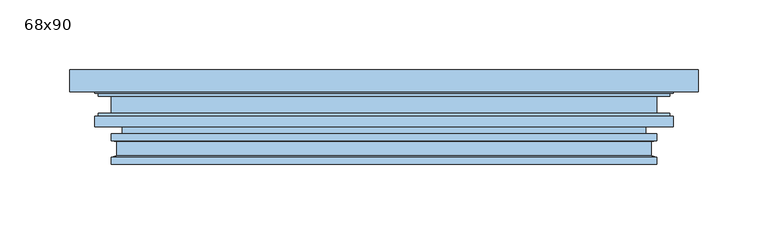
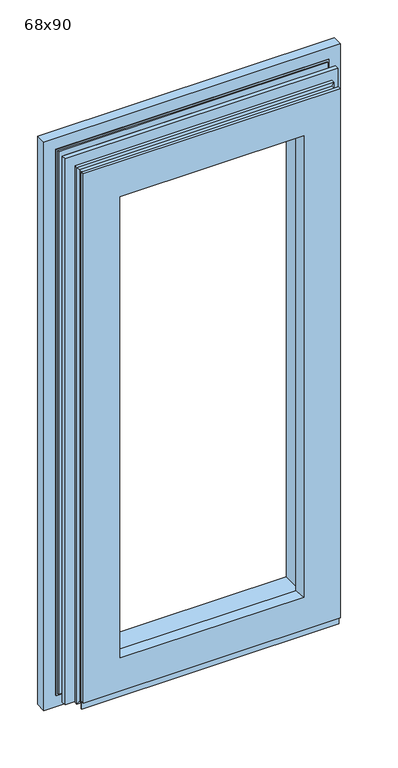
"""IFC4 building model written with IfcOpenShell, lengths in millimetres: window geometry, NLRS_30_WIN_raamhout_sh_gen_TOBA-JM : 68x90."""

from ifc_helpers import new_model, si_unit, origin, place, context, project, spatial, faceted_brep, source, transform, mapped, element, save


def window_68x90_cc8fd18b(model_context):
    return source(origin(), model_context, "Body", "Brep", [
        faceted_brep([(226.0, 68.0, 909.0), (226.0, 52.0, 909.0), (226.0, 52.0, -6.0), (226.0, 68.0, -6.0), (226.0, 68.0, -5.0), (226.0, 68.0, 84.0), (-226.0, 52.0, -6.0), (-226.0, 52.0, 909.0), (-208.0, 52.0, 891.0), (208.0, 52.0, 891.0), (208.0, 52.0, 12.0), (-208.0, 52.0, 12.0), (-226.0, 68.0, -6.0), (-226.0, 68.0, 909.0), (-226.0, 68.0, -5.0), (-226.0, 68.0, 84.0), (153.0, 68.0, 836.0), (-153.0, 68.0, 836.0), (-153.0, 68.0, 67.0), (153.0, 68.0, 67.0), (153.0, 13.0, 836.0), (153.0, 13.0, 67.0), (-153.0, 13.0, 67.0), (-153.0, 13.0, 836.0), (136.0, 13.0, 819.0), (-136.0, 13.0, 819.0), (-136.0, 13.0, 84.0), (136.0, 13.0, 84.0), (140.0, 0.0, 823.0), (140.0, 0.0, 80.0), (-140.0, 0.0, 80.0), (196.0, 0.0, 27.0), (196.0, 0.0, 879.0), (-196.0, 0.0, 879.0), (-196.0, 0.0, 27.0), (-140.0, 0.0, 823.0), (196.0, 5.0, 879.0), (196.0, 4.0, 27.0), (196.0, 4.0, 15.0), (196.0, 5.0, 15.0), (-196.0, 4.0, 27.0), (-196.0, 4.0, 15.0), (-192.0, 9.0, 15.0), (192.0, 9.0, 15.0), (192.0, 6.0, 15.0), (-196.0, 5.0, 15.0), (-192.0, 6.0, 15.0), (192.0, 6.0, 875.0), (192.0, 16.0, 875.0), (192.0, 10.0, 19.0), (192.0, 16.0, 19.0), (-192.0, 10.0, 19.0), (-192.0, 16.0, 19.0), (196.0, 17.0, 879.0), (196.0, 17.0, 15.0), (-196.0, 17.0, 15.0), (196.0, 22.0, 879.0), (196.0, 22.0, 15.0), (-196.0, 22.0, 15.0), (-196.0, 22.0, 879.0), (-188.0, 22.0, 23.0), (188.0, 22.0, 23.0), (188.0, 22.0, 871.0), (-188.0, 22.0, 871.0), (188.0, 27.0, 871.0), (188.0, 27.0, 23.0), (-188.0, 27.0, 23.0), (208.0, 27.0, 12.0), (208.0, 27.0, 891.0), (-208.0, 27.0, 891.0), (-208.0, 27.0, 12.0), (-188.0, 27.0, 871.0), (208.0, 34.5, 891.0), (208.0, 34.5, 12.0), (-208.0, 34.5, 12.0), (-208.0, 34.5, 891.0), (-205.5, 34.5, 14.5), (205.5, 34.5, 14.5), (205.5, 34.5, 888.5), (-205.5, 34.5, 888.5), (205.5, 36.5, 888.5), (205.5, 36.5, 14.5), (-205.5, 36.5, 14.5), (-205.5, 36.5, 888.5), (-196.0, 36.5, 24.0), (196.0, 36.5, 24.0), (196.0, 36.5, 879.0), (-196.0, 36.5, 879.0), (196.0, 49.0, 879.0), (196.0, 49.0, 24.0), (-196.0, 49.0, 24.0), (205.5, 49.0, 14.5), (205.5, 49.0, 888.5), (-205.5, 49.0, 888.5), (-205.5, 49.0, 14.5), (-196.0, 49.0, 879.0), (205.5, 51.0, 888.5), (205.5, 51.0, 14.5), (-205.5, 51.0, 14.5), (208.0, 51.0, 12.0), (208.0, 51.0, 891.0), (-208.0, 51.0, 891.0), (-208.0, 51.0, 12.0), (-205.5, 51.0, 888.5), (-196.0, 5.0, 879.0), (-192.0, 6.0, 875.0), (-192.0, 16.0, 875.0), (-196.0, 17.0, 879.0)], [[[0, 1, 2, 3, 4, 5]], [[6, 2, 1, 7], [8, 9, 10, 11]], [[6, 12, 3, 2]], [[13, 0, 5, 4, 3, 12, 14, 15], [16, 17, 18, 19]], [[20, 16, 19, 21]], [[19, 18, 22, 21]], [[23, 20, 21, 22], [24, 25, 26, 27]], [[28, 24, 27, 29]], [[27, 26, 30, 29]], [[31, 32, 33, 34], [35, 28, 29, 30]], [[36, 32, 31, 37, 38, 39]], [[31, 34, 40, 37]], [[41, 38, 37, 40]], [[42, 43, 44, 39, 38, 41, 45, 46]], [[47, 36, 39, 44]], [[48, 47, 44, 43, 49, 50]], [[51, 49, 43, 42]], [[52, 50, 49, 51]], [[53, 48, 50, 54]], [[55, 54, 50, 52]], [[56, 53, 54, 57]], [[58, 57, 54, 55]], [[58, 59, 56, 57], [60, 61, 62, 63]], [[64, 62, 61, 65]], [[66, 65, 61, 60]], [[67, 68, 69, 70], [66, 71, 64, 65]], [[72, 68, 67, 73]], [[74, 73, 67, 70]], [[74, 75, 72, 73], [76, 77, 78, 79]], [[80, 78, 77, 81]], [[82, 81, 77, 76]], [[82, 83, 80, 81], [84, 85, 86, 87]], [[88, 86, 85, 89]], [[90, 89, 85, 84]], [[91, 92, 93, 94], [90, 95, 88, 89]], [[96, 92, 91, 97]], [[98, 97, 91, 94]], [[99, 100, 101, 102], [98, 103, 96, 97]], [[9, 100, 99, 10]], [[11, 10, 99, 102]], [[102, 101, 8, 11]], [[6, 7, 13, 15, 14, 12]], [[17, 23, 22, 18]], [[25, 35, 30, 26]], [[33, 104, 45, 41, 40, 34]], [[45, 104, 105, 46]], [[46, 105, 106, 52, 51, 42]], [[52, 106, 107, 55]], [[55, 107, 59, 58]], [[60, 63, 71, 66]], [[70, 69, 75, 74]], [[76, 79, 83, 82]], [[84, 87, 95, 90]], [[94, 93, 103, 98]], [[1, 0, 13, 7]], [[16, 20, 23, 17]], [[24, 28, 35, 25]], [[32, 36, 104, 33]], [[36, 47, 105, 104]], [[47, 48, 106, 105]], [[48, 53, 107, 106]], [[53, 56, 59, 107]], [[62, 64, 71, 63]], [[68, 72, 75, 69]], [[78, 80, 83, 79]], [[86, 88, 95, 87]], [[92, 96, 103, 93]], [[100, 9, 8, 101]]]),
    ])


if __name__ == "__main__":
    model = new_model("IFC4")
    model_context = context("Model", 3, world=origin())
    ifc_project = project(units=[si_unit("LENGTHUNIT", "METRE", prefix="MILLI")], contexts=[model_context])
    site = spatial("IfcSite", under=ifc_project)
    building = spatial("IfcBuilding", under=site)
    placement = place(None, origin())
    window_68x90_shape = window_68x90_cc8fd18b(model_context)
    element("IfcWindow", 1, ObjectType="NLRS_30_WIN_raamhout_sh_gen_TOBA-JM : 68x90", at=placement, inside=building, context=model_context, shape_type="MappedRepresentation", body=[
        mapped(window_68x90_shape, transform((0.0, 0.0, 0.0), x_axis=(1.0, 0.0, 0.0), y_axis=(0.0, 1.0, 0.0), z_axis=(0.0, 0.0, 1.0))),
    ])
    save(model, "model.ifc")
